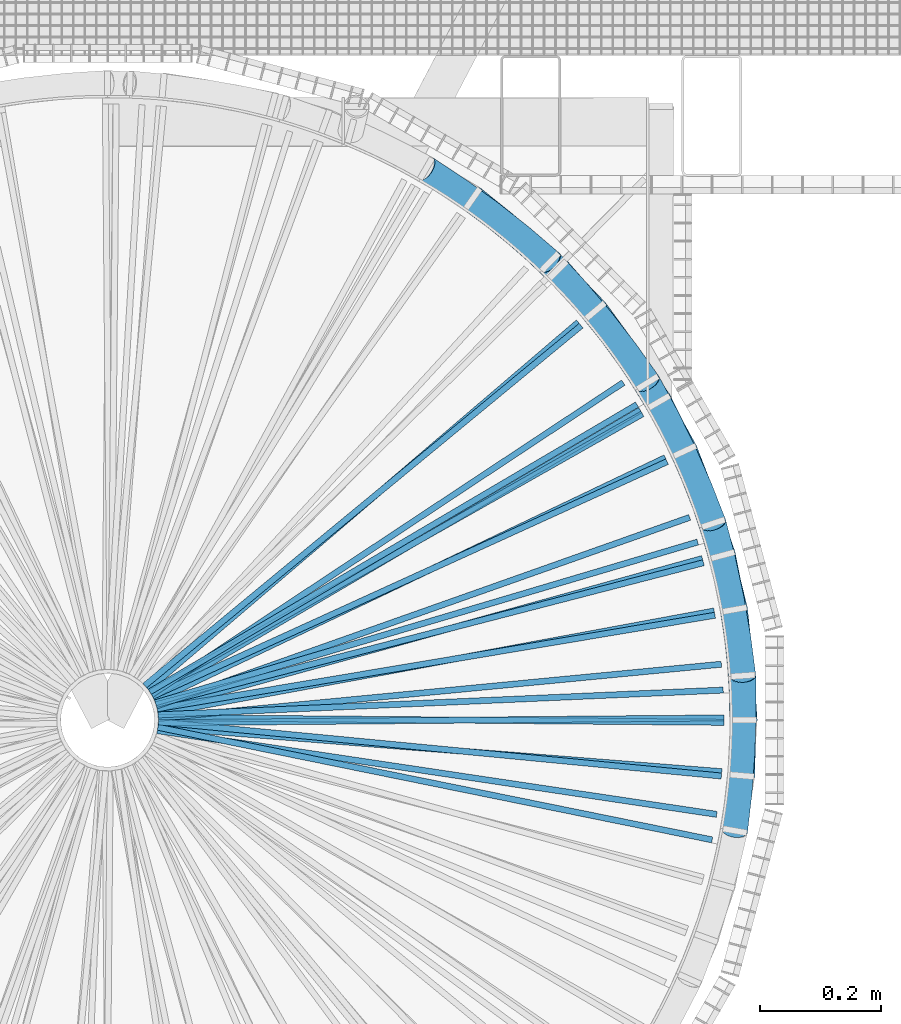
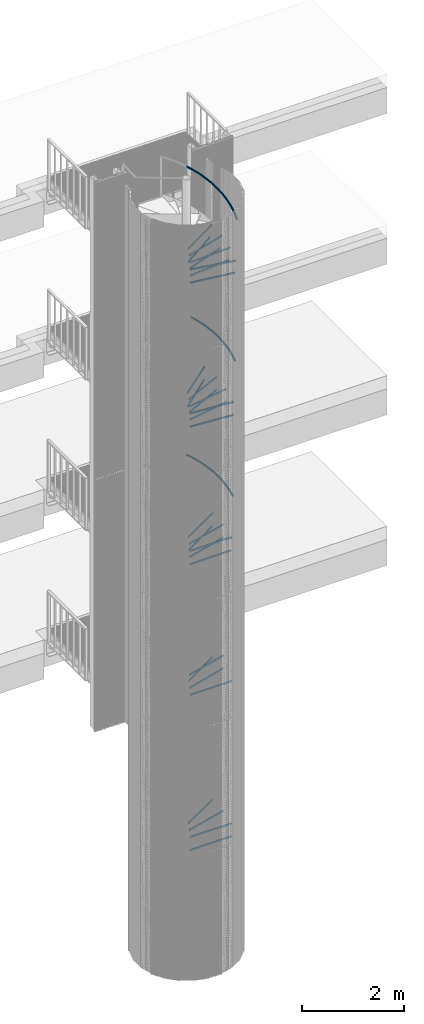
# One storey, part 302 of 1148: 30 beams, 13 members, 17 elements without a shape of their own.
"""IFC2X3 building model written with IfcOpenShell, lengths in millimetres."""

from ifc_helpers import new_model, entity, si_unit, frame, origin_with_axes, origin_2d_with_axis, place, context, subcontext, project, spatial, rectangle, extrude, material, type_object, element, aggregate, save


model = new_model("IFC2X3")

# Units and contexts
model_context = context("Model", 3, precision=1e-05, world=origin_with_axes())
body_context = subcontext(model_context, "Body", "Model", "MODEL_VIEW")
ifc_project = project(units=[si_unit("LENGTHUNIT", "METRE", prefix="MILLI"), si_unit("AREAUNIT", "SQUARE_METRE"), si_unit("VOLUMEUNIT", "CUBIC_METRE"), si_unit("MASSUNIT", "GRAM", prefix="KILO"), si_unit("TIMEUNIT", "SECOND"), si_unit("PLANEANGLEUNIT", "RADIAN"), si_unit("SOLIDANGLEUNIT", "STERADIAN"), si_unit("THERMODYNAMICTEMPERATUREUNIT", "DEGREE_CELSIUS"), si_unit("LUMINOUSINTENSITYUNIT", "LUMEN")], contexts=[model_context])

# Site, building, storey
site_placement = place(None, origin_with_axes())
site = spatial("IfcSite", under=ifc_project, at=site_placement, Name="Undefined", CompositionType="ELEMENT")
building_placement = place(site_placement, origin_with_axes())
building = spatial("IfcBuilding", under=site, at=building_placement, Name="Undefined", CompositionType="ELEMENT")
storey_placement = place(building_placement, origin_with_axes())
storey = spatial("IfcBuildingStorey", under=building, at=storey_placement, Name="Undefined", CompositionType="ELEMENT", Elevation=0.0)

# Assembly, beam
assembly_1_placement = place(storey_placement, origin_with_axes())
assembly_1 = element("IfcElementAssembly", 1, at=assembly_1_placement, inside=storey, Name="POTEAU", AssemblyPlace="NOTDEFINED", PredefinedType="NOTDEFINED")
ifc_material = material(Name="STEEL/S235JR")
beam_type = type_object("IfcBeamType", Name="PL10*40", PredefinedType="NOTDEFINED")
beam_1_placement = place(assembly_1_placement, frame((61.5514692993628, 57.2469454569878, 13196.4), z_axis=(0.0, 0.0, 1.0), x_axis=(0.771460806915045, 0.636276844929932, 0.0)))
beam_1 = element("IfcBeam", 2, at=beam_1_placement, type_object=beam_type, material=ifc_material, Name="RAIDISSEUR", context=body_context, shape_type="SweptSolid", body=[
    extrude(rectangle(XDim=10.0, YDim=40.0, at=origin_2d_with_axis()), frame((935.982964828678, -2.59787459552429e-14, -3.63797880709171e-12), z_axis=(-1.0, 0.0, 0.0), x_axis=(0.0, -1.0, 0.0)), (0.0, 0.0, 1.0), 935.98),
])

# Assembly, beams
assembly_2_placement = place(storey_placement, origin_with_axes())
assembly_2 = element("IfcElementAssembly", 3, at=assembly_2_placement, inside=storey, Name="POTEAU", AssemblyPlace="NOTDEFINED", PredefinedType="NOTDEFINED")
beam_2_placement = place(assembly_2_placement, frame((79.9781805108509, 25.8705774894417, 9596.40000000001), z_axis=(0.0, 0.0, 1.0), x_axis=(0.968083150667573, 0.250629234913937, 0.0)))
beam_2 = element("IfcBeam", 4, at=beam_2_placement, type_object=beam_type, material=ifc_material, Name="RAIDISSEUR", context=body_context, shape_type="SweptSolid", body=[
    extrude(rectangle(XDim=10.0, YDim=40.0, at=origin_2d_with_axis()), frame((935.982964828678, -2.59787459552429e-14, -3.63797880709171e-12), z_axis=(-1.0, 0.0, 0.0), x_axis=(0.0, -1.0, 0.0)), (0.0, 0.0, 1.0), 935.98),
])
beam_3_placement = place(assembly_2_placement, frame((83.9487882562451, 4.28918262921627, 9439.88000000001), z_axis=(0.0, 0.0, 1.0), x_axis=(0.99996413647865, -0.00846910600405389, 0.0)))
beam_3 = element("IfcBeam", 5, at=beam_3_placement, type_object=beam_type, material=ifc_material, Name="RAIDISSEUR", context=body_context, shape_type="SweptSolid", body=[
    extrude(rectangle(XDim=10.0, YDim=40.0, at=origin_2d_with_axis()), frame((935.982964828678, -2.59787459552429e-14, -3.63797880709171e-12), z_axis=(-1.0, 0.0, 0.0), x_axis=(0.0, -1.0, 0.0)), (0.0, 0.0, 1.0), 935.98),
])
beam_4_placement = place(assembly_2_placement, frame((82.1984248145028, 17.584512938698, 9283.36000000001), z_axis=(0.0, 0.0, 1.0), x_axis=(0.963699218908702, 0.266990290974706, 0.0)))
beam_4 = element("IfcBeam", 6, at=beam_4_placement, type_object=beam_type, material=ifc_material, Name="RAIDISSEUR", context=body_context, shape_type="SweptSolid", body=[
    extrude(rectangle(XDim=10.0, YDim=40.0, at=origin_2d_with_axis()), frame((935.982964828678, -2.59787459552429e-14, -3.63797880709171e-12), z_axis=(-1.0, 0.0, 0.0), x_axis=(0.0, -1.0, 0.0)), (0.0, 0.0, 1.0), 935.98),
])
beam_5_placement = place(assembly_2_placement, frame((70.5571919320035, 45.6889352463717, 9752.92000000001), z_axis=(0.0, 0.0, 1.0), x_axis=(0.870228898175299, 0.492647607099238, 0.0)))
beam_5 = element("IfcBeam", 7, at=beam_5_placement, type_object=beam_type, material=ifc_material, Name="RAIDISSEUR", context=body_context, shape_type="SweptSolid", body=[
    extrude(rectangle(XDim=10.0, YDim=40.0, at=origin_2d_with_axis()), frame((935.982964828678, -2.59787459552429e-14, -3.63797880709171e-12), z_axis=(-1.0, 0.0, 0.0), x_axis=(0.0, -1.0, 0.0)), (0.0, 0.0, 1.0), 935.98),
])

assembly_3_placement = place(storey_placement, origin_with_axes())
assembly_3 = element("IfcElementAssembly", 8, at=assembly_3_placement, inside=storey, Name="POTEAU", AssemblyPlace="NOTDEFINED", PredefinedType="NOTDEFINED")
beam_6_placement = place(assembly_3_placement, frame((79.978180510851, 25.8705774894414, 6465.84000000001), z_axis=(0.0, 0.0, 1.0), x_axis=(0.968083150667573, 0.250629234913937, 0.0)))
beam_6 = element("IfcBeam", 9, at=beam_6_placement, type_object=beam_type, material=ifc_material, Name="RAIDISSEUR", context=body_context, shape_type="SweptSolid", body=[
    extrude(rectangle(XDim=10.0, YDim=40.0, at=origin_2d_with_axis()), frame((935.982964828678, -2.59787459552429e-14, -3.63797880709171e-12), z_axis=(-1.0, 0.0, 0.0), x_axis=(0.0, -1.0, 0.0)), (0.0, 0.0, 1.0), 935.98),
])
beam_7_placement = place(assembly_3_placement, frame((83.9487882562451, -4.28918262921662, 2293.8), z_axis=(0.0, 0.0, 1.0), x_axis=(0.99996413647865, 0.00846910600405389, 0.0)))
beam_7 = element("IfcBeam", 10, at=beam_7_placement, type_object=beam_type, material=ifc_material, Name="RAIDISSEUR", context=body_context, shape_type="SweptSolid", body=[
    extrude(rectangle(XDim=10.0, YDim=40.0, at=origin_2d_with_axis()), frame((935.982964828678, -2.59787459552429e-14, -3.63797880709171e-12), z_axis=(-1.0, 0.0, 0.0), x_axis=(0.0, -1.0, 0.0)), (0.0, 0.0, 1.0), 935.98),
])
beam_8_placement = place(assembly_3_placement, frame((83.9487882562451, -4.28918262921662, 6002.28000000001), z_axis=(0.0, 0.0, 1.0), x_axis=(0.99996413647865, 0.00846910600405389, 0.0)))
beam_8 = element("IfcBeam", 11, at=beam_8_placement, type_object=beam_type, material=ifc_material, Name="RAIDISSEUR", context=body_context, shape_type="SweptSolid", body=[
    extrude(rectangle(XDim=10.0, YDim=40.0, at=origin_2d_with_axis()), frame((935.982964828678, -2.59787459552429e-14, -3.63797880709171e-12), z_axis=(-1.0, 0.0, 0.0), x_axis=(0.0, -1.0, 0.0)), (0.0, 0.0, 1.0), 935.98),
])
beam_9_placement = place(assembly_3_placement, frame((74.8463745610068, 38.2598530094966, 6311.32000000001), z_axis=(0.0, 0.0, 1.0), x_axis=(0.861759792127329, 0.507316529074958, 0.0)))
beam_9 = element("IfcBeam", 12, at=beam_9_placement, type_object=beam_type, material=ifc_material, Name="RAIDISSEUR", context=body_context, shape_type="SweptSolid", body=[
    extrude(rectangle(XDim=10.0, YDim=40.0, at=origin_2d_with_axis()), frame((935.982964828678, -2.59787459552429e-14, -3.63797880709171e-12), z_axis=(-1.0, 0.0, 0.0), x_axis=(0.0, -1.0, 0.0)), (0.0, 0.0, 1.0), 935.98),
])
beam_10_placement = place(assembly_3_placement, frame((82.1984248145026, 17.5845129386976, 6156.80000000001), z_axis=(0.0, 0.0, 1.0), x_axis=(0.963699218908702, 0.266990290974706, 0.0)))
beam_10 = element("IfcBeam", 13, at=beam_10_placement, type_object=beam_type, material=ifc_material, Name="RAIDISSEUR", context=body_context, shape_type="SweptSolid", body=[
    extrude(rectangle(XDim=10.0, YDim=40.0, at=origin_2d_with_axis()), frame((935.982964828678, -2.59787459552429e-14, -3.63797880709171e-12), z_axis=(-1.0, 0.0, 0.0), x_axis=(0.0, -1.0, 0.0)), (0.0, 0.0, 1.0), 935.98),
])

assembly_4_placement = place(storey_placement, origin_with_axes())
assembly_4 = element("IfcElementAssembly", 14, at=assembly_4_placement, inside=storey, Name="POTEAU", AssemblyPlace="NOTDEFINED", PredefinedType="NOTDEFINED")
beam_11_placement = place(assembly_4_placement, frame((82.2442633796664, -17.3688594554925, 15857.28), z_axis=(0.0, 0.0, 1.0), x_axis=(0.988977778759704, -0.148064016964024, 0.0)))
beam_11 = element("IfcBeam", 15, at=beam_11_placement, type_object=beam_type, material=ifc_material, Name="RAIDISSEUR", context=body_context, shape_type="SweptSolid", body=[
    extrude(rectangle(XDim=10.0, YDim=40.0, at=origin_2d_with_axis()), frame((935.982964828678, -2.59787459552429e-14, -3.63797880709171e-12), z_axis=(-1.0, 0.0, 0.0), x_axis=(0.0, -1.0, 0.0)), (0.0, 0.0, 1.0), 935.98),
])
beam_12_placement = place(assembly_4_placement, frame((72.7414342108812, 42.1245757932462, 16326.84), z_axis=(0.0, 0.0, 1.0), x_axis=(0.83402788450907, 0.551722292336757, 0.0)))
beam_12 = element("IfcBeam", 16, at=beam_12_placement, type_object=beam_type, material=ifc_material, Name="RAIDISSEUR", context=body_context, shape_type="SweptSolid", body=[
    extrude(rectangle(XDim=10.0, YDim=40.0, at=origin_2d_with_axis()), frame((935.982964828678, -2.59787459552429e-14, -3.63797880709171e-12), z_axis=(-1.0, 0.0, 0.0), x_axis=(0.0, -1.0, 0.0)), (0.0, 0.0, 1.0), 935.98),
])
beam_13_placement = place(assembly_4_placement, frame((79.0265898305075, 28.6460160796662, 16483.36), z_axis=(0.0, 0.0, 1.0), x_axis=(0.958746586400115, 0.284262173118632, 0.0)))
beam_13 = element("IfcBeam", 17, at=beam_13_placement, type_object=beam_type, material=ifc_material, Name="RAIDISSEUR", context=body_context, shape_type="SweptSolid", body=[
    extrude(rectangle(XDim=10.0, YDim=40.0, at=origin_2d_with_axis()), frame((935.982964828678, -2.59787459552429e-14, -3.63797880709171e-12), z_axis=(-1.0, 0.0, 0.0), x_axis=(0.0, -1.0, 0.0)), (0.0, 0.0, 1.0), 935.98),
])
beam_14_placement = place(assembly_4_placement, frame((83.6092608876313, 8.67684456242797, 16326.84), z_axis=(0.0, 0.0, 1.0), x_axis=(0.999036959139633, 0.0438765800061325, 0.0)))
beam_14 = element("IfcBeam", 18, at=beam_14_placement, type_object=beam_type, material=ifc_material, Name="RAIDISSEUR", context=body_context, shape_type="SweptSolid", body=[
    extrude(rectangle(XDim=10.0, YDim=40.0, at=origin_2d_with_axis()), frame((935.982964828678, -2.59787459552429e-14, -3.63797880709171e-12), z_axis=(-1.0, 0.0, 0.0), x_axis=(0.0, -1.0, 0.0)), (0.0, 0.0, 1.0), 935.98),
])
beam_15_placement = place(assembly_4_placement, frame((80.7715599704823, 23.2755502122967, 16170.32), z_axis=(0.0, 0.0, 1.0), x_axis=(0.942727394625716, 0.333564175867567, 0.0)))
beam_15 = element("IfcBeam", 19, at=beam_15_placement, type_object=beam_type, material=ifc_material, Name="RAIDISSEUR", context=body_context, shape_type="SweptSolid", body=[
    extrude(rectangle(XDim=10.0, YDim=40.0, at=origin_2d_with_axis()), frame((935.982964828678, -2.59787459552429e-14, -3.63797880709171e-12), z_axis=(-1.0, 0.0, 0.0), x_axis=(0.0, -1.0, 0.0)), (0.0, 0.0, 1.0), 935.98),
])
beam_16_placement = place(assembly_4_placement, frame((69.74906386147, 46.9133693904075, 16639.88), z_axis=(0.0, 0.0, 1.0), x_axis=(0.861498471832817, 0.507760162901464, 0.0)))
beam_16 = element("IfcBeam", 20, at=beam_16_placement, type_object=beam_type, material=ifc_material, Name="RAIDISSEUR", context=body_context, shape_type="SweptSolid", body=[
    extrude(rectangle(XDim=10.0, YDim=40.0, at=origin_2d_with_axis()), frame((935.982964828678, -2.59787459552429e-14, -3.63797880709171e-12), z_axis=(-1.0, 0.0, 0.0), x_axis=(0.0, -1.0, 0.0)), (0.0, 0.0, 1.0), 935.98),
])
beam_17_placement = place(assembly_4_placement, frame((84.003164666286, 3.04375799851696, 16013.8), z_axis=(0.0, 0.0, 1.0), x_axis=(0.995420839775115, 0.0955894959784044, 0.0)))
beam_17 = element("IfcBeam", 21, at=beam_17_placement, type_object=beam_type, material=ifc_material, Name="RAIDISSEUR", context=body_context, shape_type="SweptSolid", body=[
    extrude(rectangle(XDim=10.0, YDim=40.0, at=origin_2d_with_axis()), frame((935.982964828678, -2.59787459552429e-14, -3.63797880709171e-12), z_axis=(-1.0, 0.0, 0.0), x_axis=(0.0, -1.0, 0.0)), (0.0, 0.0, 1.0), 935.98),
])
beam_18_placement = place(assembly_4_placement, frame((83.2248271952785, -11.8078056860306, 16170.32), z_axis=(0.0, 0.0, 1.0), x_axis=(0.979975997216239, -0.199115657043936, 0.0)))
beam_18 = element("IfcBeam", 22, at=beam_18_placement, type_object=beam_type, material=ifc_material, Name="RAIDISSEUR", context=body_context, shape_type="SweptSolid", body=[
    extrude(rectangle(XDim=10.0, YDim=40.0, at=origin_2d_with_axis()), frame((935.982964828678, -2.59787459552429e-14, -3.63797880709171e-12), z_axis=(-1.0, 0.0, 0.0), x_axis=(0.0, -1.0, 0.0)), (0.0, 0.0, 1.0), 935.98),
])
aggregate(assembly_4, [beam_11, beam_12, beam_13, beam_14, beam_15, beam_16, beam_17, beam_18])

# Beam
beam_19_placement = place(assembly_1_placement, frame((74.2707535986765, 39.3656105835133, 13039.88), z_axis=(0.0, 0.0, 1.0), x_axis=(0.909854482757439, 0.414927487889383, 0.0)))
beam_19 = element("IfcBeam", 23, at=beam_19_placement, type_object=beam_type, material=ifc_material, Name="RAIDISSEUR", context=body_context, shape_type="SweptSolid", body=[
    extrude(rectangle(XDim=10.0, YDim=40.0, at=origin_2d_with_axis()), frame((935.982964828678, -2.59787459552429e-14, -3.63797880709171e-12), z_axis=(-1.0, 0.0, 0.0), x_axis=(0.0, -1.0, 0.0)), (0.0, 0.0, 1.0), 935.98),
])

beam_20_placement = place(assembly_1_placement, frame((81.9286087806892, 18.8015744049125, 12883.36), z_axis=(0.0, 0.0, 1.0), x_axis=(0.986243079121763, 0.165301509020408, 0.0)))
beam_20 = element("IfcBeam", 24, at=beam_20_placement, type_object=beam_type, material=ifc_material, Name="RAIDISSEUR", context=body_context, shape_type="SweptSolid", body=[
    extrude(rectangle(XDim=10.0, YDim=40.0, at=origin_2d_with_axis()), frame((935.982964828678, -2.59787459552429e-14, -3.63797880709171e-12), z_axis=(-1.0, 0.0, 0.0), x_axis=(0.0, -1.0, 0.0)), (0.0, 0.0, 1.0), 935.98),
])

beam_21_placement = place(assembly_1_placement, frame((77.8961274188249, 31.5909713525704, 12726.84), z_axis=(0.0, 0.0, 1.0), x_axis=(0.902696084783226, 0.430278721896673, 0.0)))
beam_21 = element("IfcBeam", 25, at=beam_21_placement, type_object=beam_type, material=ifc_material, Name="RAIDISSEUR", context=body_context, shape_type="SweptSolid", body=[
    extrude(rectangle(XDim=10.0, YDim=40.0, at=origin_2d_with_axis()), frame((935.982964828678, -2.59787459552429e-14, -3.63797880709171e-12), z_axis=(-1.0, 0.0, 0.0), x_axis=(0.0, -1.0, 0.0)), (0.0, 0.0, 1.0), 935.98),
])

beam_22_placement = place(assembly_1_placement, frame((83.4182262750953, 10.3535337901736, 12570.32), z_axis=(0.0, 0.0, 1.0), x_axis=(0.983301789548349, 0.181982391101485, 0.0)))
beam_22 = element("IfcBeam", 26, at=beam_22_placement, type_object=beam_type, material=ifc_material, Name="RAIDISSEUR", context=body_context, shape_type="SweptSolid", body=[
    extrude(rectangle(XDim=10.0, YDim=40.0, at=origin_2d_with_axis()), frame((935.982964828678, -2.59787459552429e-14, -3.63797880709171e-12), z_axis=(-1.0, 0.0, 0.0), x_axis=(0.0, -1.0, 0.0)), (0.0, 0.0, 1.0), 935.98),
])

beam_23_placement = place(assembly_1_placement, frame((84.003164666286, -3.04375799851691, 12726.84), z_axis=(0.0, 0.0, 1.0), x_axis=(0.995420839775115, -0.0955894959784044, 0.0)))
beam_23 = element("IfcBeam", 27, at=beam_23_placement, type_object=beam_type, material=ifc_material, Name="RAIDISSEUR", context=body_context, shape_type="SweptSolid", body=[
    extrude(rectangle(XDim=10.0, YDim=40.0, at=origin_2d_with_axis()), frame((935.982964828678, -2.59787459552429e-14, -3.63797880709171e-12), z_axis=(-1.0, 0.0, 0.0), x_axis=(0.0, -1.0, 0.0)), (0.0, 0.0, 1.0), 935.98),
])

beam_24_placement = place(assembly_1_placement, frame((67.0655362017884, 50.6755364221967, 12883.36), z_axis=(0.0, 0.0, 1.0), x_axis=(0.760573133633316, 0.649252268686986, 0.0)))
beam_24 = element("IfcBeam", 28, at=beam_24_placement, type_object=beam_type, material=ifc_material, Name="RAIDISSEUR", context=body_context, shape_type="SweptSolid", body=[
    extrude(rectangle(XDim=10.0, YDim=40.0, at=origin_2d_with_axis()), frame((935.982964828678, -2.59787459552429e-14, -3.63797880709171e-12), z_axis=(-1.0, 0.0, 0.0), x_axis=(0.0, -1.0, 0.0)), (0.0, 0.0, 1.0), 935.98),
])

beam_25_placement = place(assembly_1_placement, frame((83.2555108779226, -11.5894799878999, 12413.8), z_axis=(0.0, 0.0, 1.0), x_axis=(0.996897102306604, -0.0787157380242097, 0.0)))
beam_25 = element("IfcBeam", 29, at=beam_25_placement, type_object=beam_type, material=ifc_material, Name="RAIDISSEUR", context=body_context, shape_type="SweptSolid", body=[
    extrude(rectangle(XDim=10.0, YDim=40.0, at=origin_2d_with_axis()), frame((935.982964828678, -2.59787459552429e-14, -3.63797880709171e-12), z_axis=(-1.0, 0.0, 0.0), x_axis=(0.0, -1.0, 0.0)), (0.0, 0.0, 1.0), 935.98),
])

aggregate(assembly_1, [beam_1, beam_19, beam_20, beam_21, beam_22, beam_23, beam_24, beam_25])

beam_26_placement = place(assembly_2_placement, frame((83.9487882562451, -4.28918262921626, 9126.84000000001), z_axis=(0.0, 0.0, 1.0), x_axis=(0.99996413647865, 0.00846910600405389, 0.0)))
beam_26 = element("IfcBeam", 30, at=beam_26_placement, type_object=beam_type, material=ifc_material, Name="RAIDISSEUR", context=body_context, shape_type="SweptSolid", body=[
    extrude(rectangle(XDim=10.0, YDim=40.0, at=origin_2d_with_axis()), frame((935.982964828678, -2.59787459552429e-14, -3.63797880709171e-12), z_axis=(-1.0, 0.0, 0.0), x_axis=(0.0, -1.0, 0.0)), (0.0, 0.0, 1.0), 935.98),
])

beam_27_placement = place(assembly_2_placement, frame((74.8463745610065, 38.2598530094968, 9439.88000000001), z_axis=(0.0, 0.0, 1.0), x_axis=(0.861759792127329, 0.507316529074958, 0.0)))
beam_27 = element("IfcBeam", 31, at=beam_27_placement, type_object=beam_type, material=ifc_material, Name="RAIDISSEUR", context=body_context, shape_type="SweptSolid", body=[
    extrude(rectangle(XDim=10.0, YDim=40.0, at=origin_2d_with_axis()), frame((935.982964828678, -2.59787459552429e-14, -3.63797880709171e-12), z_axis=(-1.0, 0.0, 0.0), x_axis=(0.0, -1.0, 0.0)), (0.0, 0.0, 1.0), 935.98),
])

aggregate(assembly_2, [beam_2, beam_3, beam_4, beam_5, beam_26, beam_27])

beam_28_placement = place(assembly_3_placement, frame((79.978180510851, 25.8705774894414, 2757.36), z_axis=(0.0, 0.0, 1.0), x_axis=(0.968083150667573, 0.250629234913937, 0.0)))
beam_28 = element("IfcBeam", 32, at=beam_28_placement, type_object=beam_type, material=ifc_material, Name="RAIDISSEUR", context=body_context, shape_type="SweptSolid", body=[
    extrude(rectangle(XDim=10.0, YDim=40.0, at=origin_2d_with_axis()), frame((935.982964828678, -2.59787459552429e-14, -3.63797880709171e-12), z_axis=(-1.0, 0.0, 0.0), x_axis=(0.0, -1.0, 0.0)), (0.0, 0.0, 1.0), 935.98),
])

beam_29_placement = place(assembly_3_placement, frame((83.9487882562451, 4.28918262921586, 2602.84), z_axis=(0.0, 0.0, 1.0), x_axis=(0.99996413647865, -0.00846910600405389, 0.0)))
beam_29 = element("IfcBeam", 33, at=beam_29_placement, type_object=beam_type, material=ifc_material, Name="RAIDISSEUR", context=body_context, shape_type="SweptSolid", body=[
    extrude(rectangle(XDim=10.0, YDim=40.0, at=origin_2d_with_axis()), frame((935.982964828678, -2.59787459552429e-14, -3.63797880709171e-12), z_axis=(-1.0, 0.0, 0.0), x_axis=(0.0, -1.0, 0.0)), (0.0, 0.0, 1.0), 935.98),
])

beam_30_placement = place(assembly_3_placement, frame((70.5571919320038, 45.6889352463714, 2911.88), z_axis=(0.0, 0.0, 1.0), x_axis=(0.870228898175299, 0.492647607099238, 0.0)))
beam_30 = element("IfcBeam", 34, at=beam_30_placement, type_object=beam_type, material=ifc_material, Name="RAIDISSEUR", context=body_context, shape_type="SweptSolid", body=[
    extrude(rectangle(XDim=10.0, YDim=40.0, at=origin_2d_with_axis()), frame((935.982964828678, -2.59787459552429e-14, -3.63797880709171e-12), z_axis=(-1.0, 0.0, 0.0), x_axis=(0.0, -1.0, 0.0)), (0.0, 0.0, 1.0), 935.98),
])

aggregate(assembly_3, [beam_6, beam_7, beam_8, beam_9, beam_10, beam_28, beam_29, beam_30])

# Assembly, member
assembly_5_placement = place(storey_placement, origin_with_axes())
assembly_5 = element("IfcElementAssembly", 35, at=assembly_5_placement, inside=storey, Name="MONTANT", AssemblyPlace="NOTDEFINED", PredefinedType="NOTDEFINED")
member_type = type_object("IfcMemberType", Name="TUBE-42.4*3.2", PredefinedType="NOTDEFINED")
member_1_placement = place(assembly_5_placement, frame((745.290547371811, 745.290547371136, 10876.919999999), z_axis=(0.608761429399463, 0.793353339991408, 1.80913957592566e-10), x_axis=(-0.689586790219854, 0.5291385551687, 0.494451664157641)))
member_1 = element("IfcMember", 36, at=member_1_placement, type_object=member_type, material=ifc_material, Name="MAIN_COURANTE", context=body_context, shape_type="SweptSolid", body=[
    entity("IfcRevolvedAreaSolid", entity("IfcCircleHollowProfileDef", "AREA", None, entity("IfcAxis2Placement2D", entity("IfcCartesianPoint", [0.0, 0.0]), entity("IfcDirection", [1.0, 0.0])), 21.200000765, 3.200000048), entity("IfcAxis2Placement3D", entity("IfcCartesianPoint", [316.552681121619, 9.09494701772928e-13, -1.82569453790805e-12]), entity("IfcDirection", [-0.997177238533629, 2.1263748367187e-18, 0.0750836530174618]), entity("IfcDirection", [0.0, -1.0, 0.0])), entity("IfcAxis1Placement", entity("IfcCartesianPoint", [0.0, -2108.0, 0.0]), entity("IfcDirection", [1.0, 0.0, 0.0])), 0.150308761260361),
])
aggregate(assembly_5, [member_1])

assembly_6_placement = place(storey_placement, origin_with_axes())
assembly_6 = element("IfcElementAssembly", 37, at=assembly_6_placement, inside=storey, Name="MONTANT", AssemblyPlace="NOTDEFINED", PredefinedType="NOTDEFINED")
member_2_placement = place(assembly_6_placement, frame((912.790775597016, 527.000000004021, 10720.4000000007), z_axis=(0.793353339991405, 0.608761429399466, -1.80914867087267e-10), x_axis=(-0.529138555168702, 0.689586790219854, 0.494451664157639)))
member_2 = element("IfcMember", 38, at=member_2_placement, type_object=member_type, material=ifc_material, Name="MAIN_COURANTE", context=body_context, shape_type="SweptSolid", body=[
    entity("IfcRevolvedAreaSolid", entity("IfcCircleHollowProfileDef", "AREA", None, entity("IfcAxis2Placement2D", entity("IfcCartesianPoint", [0.0, 0.0]), entity("IfcDirection", [1.0, 0.0])), 21.200000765, 3.200000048), entity("IfcAxis2Placement3D", entity("IfcCartesianPoint", [316.552681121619, 9.09494701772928e-13, -1.82569453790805e-12]), entity("IfcDirection", [-0.997177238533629, 2.1263748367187e-18, 0.0750836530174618]), entity("IfcDirection", [0.0, -1.0, 0.0])), entity("IfcAxis1Placement", entity("IfcCartesianPoint", [0.0, -2108.0, 0.0]), entity("IfcDirection", [1.0, 0.0, 0.0])), 0.150308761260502),
])
aggregate(assembly_6, [member_2])

assembly_7_placement = place(storey_placement, origin_with_axes())
assembly_7 = element("IfcElementAssembly", 39, at=assembly_7_placement, inside=storey, Name="MONTANT", AssemblyPlace="NOTDEFINED", PredefinedType="NOTDEFINED")
member_3_placement = place(assembly_7_placement, frame((1018.08582090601, 272.795273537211, 10563.8800000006), z_axis=(0.923879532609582, 0.382683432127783, -1.50203049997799e-10), x_axis=(-0.332630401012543, 0.803040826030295, 0.494451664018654)))
member_3 = element("IfcMember", 40, at=member_3_placement, type_object=member_type, material=ifc_material, Name="MAIN_COURANTE", context=body_context, shape_type="SweptSolid", body=[
    entity("IfcRevolvedAreaSolid", entity("IfcCircleHollowProfileDef", "AREA", None, entity("IfcAxis2Placement2D", entity("IfcCartesianPoint", [0.0, 0.0]), entity("IfcDirection", [1.0, 0.0])), 21.200000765, 3.200000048), entity("IfcAxis2Placement3D", entity("IfcCartesianPoint", [316.552681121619, 9.09494701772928e-13, -1.82569453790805e-12]), entity("IfcDirection", [-0.997177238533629, 2.1263748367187e-18, 0.0750836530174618]), entity("IfcDirection", [0.0, -1.0, 0.0])), entity("IfcAxis1Placement", entity("IfcCartesianPoint", [0.0, -2108.0, 0.0]), entity("IfcDirection", [1.0, 0.0, 0.0])), 0.150308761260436),
])
aggregate(assembly_7, [member_3])

assembly_8_placement = place(storey_placement, origin_with_axes())
assembly_8 = element("IfcElementAssembly", 41, at=assembly_8_placement, inside=storey, Name="MONTANT", AssemblyPlace="NOTDEFINED", PredefinedType="NOTDEFINED")
member_4_placement = place(assembly_8_placement, frame((1053.99999999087, -2.52157406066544e-10, 10407.3599999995), z_axis=(0.991444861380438, 0.130526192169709, -6.66041160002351e-11), x_axis=(-0.113454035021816, 0.861768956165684, 0.494451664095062)))
member_4 = element("IfcMember", 42, at=member_4_placement, type_object=member_type, material=ifc_material, Name="MAIN_COURANTE", context=body_context, shape_type="SweptSolid", body=[
    entity("IfcRevolvedAreaSolid", entity("IfcCircleHollowProfileDef", "AREA", None, entity("IfcAxis2Placement2D", entity("IfcCartesianPoint", [0.0, 0.0]), entity("IfcDirection", [1.0, 0.0])), 21.200000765, 3.200000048), entity("IfcAxis2Placement3D", entity("IfcCartesianPoint", [316.552681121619, 9.09494701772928e-13, -1.82569453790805e-12]), entity("IfcDirection", [-0.997177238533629, 2.1263748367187e-18, 0.0750836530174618]), entity("IfcDirection", [0.0, -1.0, 0.0])), entity("IfcAxis1Placement", entity("IfcCartesianPoint", [0.0, -2108.0, 0.0]), entity("IfcDirection", [1.0, 0.0, 0.0])), 0.150308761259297),
])
aggregate(assembly_8, [member_4])

assembly_9_placement = place(storey_placement, origin_with_axes())
assembly_9 = element("IfcElementAssembly", 43, at=assembly_9_placement, inside=storey, Name="MONTANT", AssemblyPlace="NOTDEFINED", PredefinedType="NOTDEFINED")
member_5_placement = place(assembly_9_placement, frame((807.410843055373, 677.498140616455, 14163.8800000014), z_axis=(0.675590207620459, 0.737277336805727, 8.45193426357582e-11), x_axis=(-0.640845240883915, 0.587226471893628, 0.494451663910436)))
member_5 = element("IfcMember", 44, at=member_5_placement, type_object=member_type, material=ifc_material, Name="MAIN_COURANTE", context=body_context, shape_type="SweptSolid", body=[
    entity("IfcRevolvedAreaSolid", entity("IfcCircleHollowProfileDef", "AREA", None, entity("IfcAxis2Placement2D", entity("IfcCartesianPoint", [0.0, 0.0]), entity("IfcDirection", [1.0, 0.0])), 21.200000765, 3.200000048), entity("IfcAxis2Placement3D", entity("IfcCartesianPoint", [316.552681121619, 9.09494701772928e-13, -1.82569453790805e-12]), entity("IfcDirection", [-0.997177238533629, 2.1263748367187e-18, 0.0750836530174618]), entity("IfcDirection", [0.0, -1.0, 0.0])), entity("IfcAxis1Placement", entity("IfcCartesianPoint", [0.0, -2108.0, 0.0]), entity("IfcDirection", [1.0, 0.0, 0.0])), 0.150308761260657),
])
aggregate(assembly_9, [member_5])

assembly_10_placement = place(storey_placement, origin_with_axes())
assembly_10 = element("IfcElementAssembly", 45, at=assembly_10_placement, inside=storey, Name="MONTANT", AssemblyPlace="NOTDEFINED", PredefinedType="NOTDEFINED")
member_6_placement = place(assembly_10_placement, frame((955.248407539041, 445.439647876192, 14007.3600000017), z_axis=(0.843391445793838, 0.537299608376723, 2.43751856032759e-10), x_axis=(-0.467023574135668, 0.733080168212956, 0.494451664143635)))
member_6 = element("IfcMember", 46, at=member_6_placement, type_object=member_type, material=ifc_material, Name="MAIN_COURANTE", context=body_context, shape_type="SweptSolid", body=[
    entity("IfcRevolvedAreaSolid", entity("IfcCircleHollowProfileDef", "AREA", None, entity("IfcAxis2Placement2D", entity("IfcCartesianPoint", [0.0, 0.0]), entity("IfcDirection", [1.0, 0.0])), 21.200000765, 3.200000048), entity("IfcAxis2Placement3D", entity("IfcCartesianPoint", [316.552681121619, 9.09494701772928e-13, -1.82569453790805e-12]), entity("IfcDirection", [-0.997177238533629, 2.1263748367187e-18, 0.0750836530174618]), entity("IfcDirection", [0.0, -1.0, 0.0])), entity("IfcAxis1Placement", entity("IfcCartesianPoint", [0.0, -2108.0, 0.0]), entity("IfcDirection", [1.0, 0.0, 0.0])), 0.150308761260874),
])
aggregate(assembly_10, [member_6])

assembly_11_placement = place(storey_placement, origin_with_axes())
assembly_11 = element("IfcElementAssembly", 47, at=assembly_11_placement, inside=storey, Name="MONTANT", AssemblyPlace="NOTDEFINED", PredefinedType="NOTDEFINED")
member_7_placement = place(assembly_11_placement, frame((1037.98737168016, 183.025179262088, 13850.8399999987), z_axis=(0.953716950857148, 0.300705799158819, -4.31926309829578e-10), x_axis=(-0.261375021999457, 0.828975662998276, 0.494451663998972)))
member_7 = element("IfcMember", 48, at=member_7_placement, type_object=member_type, material=ifc_material, Name="MAIN_COURANTE", context=body_context, shape_type="SweptSolid", body=[
    entity("IfcRevolvedAreaSolid", entity("IfcCircleHollowProfileDef", "AREA", None, entity("IfcAxis2Placement2D", entity("IfcCartesianPoint", [0.0, 0.0]), entity("IfcDirection", [1.0, 0.0])), 21.200000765, 3.200000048), entity("IfcAxis2Placement3D", entity("IfcCartesianPoint", [316.552681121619, 9.09494701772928e-13, -1.82569453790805e-12]), entity("IfcDirection", [-0.997177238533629, 2.1263748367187e-18, 0.0750836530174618]), entity("IfcDirection", [0.0, -1.0, 0.0])), entity("IfcAxis1Placement", entity("IfcCartesianPoint", [0.0, -2108.0, 0.0]), entity("IfcDirection", [1.0, 0.0, 0.0])), 0.150308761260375),
])
aggregate(assembly_11, [member_7])

assembly_12_placement = place(storey_placement, origin_with_axes())
assembly_12 = element("IfcElementAssembly", 49, at=assembly_12_placement, inside=storey, Name="MONTANT", AssemblyPlace="NOTDEFINED", PredefinedType="NOTDEFINED")
member_8_placement = place(assembly_12_placement, frame((1049.98921176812, -91.8621528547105, 13694.3200000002), z_axis=(0.999048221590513, 0.0436193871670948, 1.05123035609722e-10), x_axis=(-0.0379141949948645, 0.868377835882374, 0.494451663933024)))
member_8 = element("IfcMember", 50, at=member_8_placement, type_object=member_type, material=ifc_material, Name="MAIN_COURANTE", context=body_context, shape_type="SweptSolid", body=[
    entity("IfcRevolvedAreaSolid", entity("IfcCircleHollowProfileDef", "AREA", None, entity("IfcAxis2Placement2D", entity("IfcCartesianPoint", [0.0, 0.0]), entity("IfcDirection", [1.0, 0.0])), 21.200000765, 3.200000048), entity("IfcAxis2Placement3D", entity("IfcCartesianPoint", [316.552681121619, 9.09494701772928e-13, -1.82569453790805e-12]), entity("IfcDirection", [-0.997177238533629, 2.1263748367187e-18, 0.0750836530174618]), entity("IfcDirection", [0.0, -1.0, 0.0])), entity("IfcAxis1Placement", entity("IfcCartesianPoint", [0.0, -2108.0, 0.0]), entity("IfcDirection", [1.0, 0.0, 0.0])), 0.15030876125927),
])
aggregate(assembly_12, [member_8])

assembly_13_placement = place(storey_placement, origin_with_axes())
assembly_13 = element("IfcElementAssembly", 51, at=assembly_13_placement, inside=storey, Name="MONTANT", AssemblyPlace="NOTDEFINED", PredefinedType="NOTDEFINED")
member_9_placement = place(assembly_13_placement, frame((732.169922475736, 758.184149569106, 17763.879999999), z_axis=(0.601815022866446, 0.79863551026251, 1.61235220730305e-10), x_axis=(-0.682021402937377, 0.51393998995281, 0.520300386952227)))
member_9 = element("IfcMember", 52, at=member_9_placement, type_object=member_type, material=ifc_material, Name="MAIN_COURANTE", context=body_context, shape_type="SweptSolid", body=[
    entity("IfcRevolvedAreaSolid", entity("IfcCircleHollowProfileDef", "AREA", None, entity("IfcAxis2Placement2D", entity("IfcCartesianPoint", [0.0, 0.0]), entity("IfcDirection", [1.0, 0.0])), 21.200000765, 3.200000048), entity("IfcAxis2Placement3D", entity("IfcCartesianPoint", [300.826222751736, 9.26193911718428e-13, -2.55538133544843e-15]), entity("IfcDirection", [-0.997451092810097, -5.56582410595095e-17, 0.0713534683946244]), entity("IfcDirection", [0.0, -1.0, 0.0])), entity("IfcAxis1Placement", entity("IfcCartesianPoint", [0.0, -2108.0, 0.0]), entity("IfcDirection", [1.0, 0.0, 0.0])), 0.142828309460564),
])
aggregate(assembly_13, [member_9])

assembly_14_placement = place(storey_placement, origin_with_axes())
assembly_14 = element("IfcElementAssembly", 53, at=assembly_14_placement, inside=storey, Name="MONTANT", AssemblyPlace="NOTDEFINED", PredefinedType="NOTDEFINED")
member_10_placement = place(assembly_14_placement, frame((893.842693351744, 558.534904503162, 17607.3600000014), z_axis=(0.777145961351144, 0.629320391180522, -4.91600076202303e-11), x_axis=(-0.537429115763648, 0.663669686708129, 0.520300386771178)))
member_10 = element("IfcMember", 54, at=member_10_placement, type_object=member_type, material=ifc_material, Name="MAIN_COURANTE", context=body_context, shape_type="SweptSolid", body=[
    entity("IfcRevolvedAreaSolid", entity("IfcCircleHollowProfileDef", "AREA", None, entity("IfcAxis2Placement2D", entity("IfcCartesianPoint", [0.0, 0.0]), entity("IfcDirection", [1.0, 0.0])), 21.200000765, 3.200000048), entity("IfcAxis2Placement3D", entity("IfcCartesianPoint", [300.826222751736, 9.26193911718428e-13, -2.55538133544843e-15]), entity("IfcDirection", [-0.997451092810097, -5.56582410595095e-17, 0.0713534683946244]), entity("IfcDirection", [0.0, -1.0, 0.0])), entity("IfcAxis1Placement", entity("IfcCartesianPoint", [0.0, -2108.0, 0.0]), entity("IfcDirection", [1.0, 0.0, 0.0])), 0.142828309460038),
])
aggregate(assembly_14, [member_10])

assembly_15_placement = place(storey_placement, origin_with_axes())
assembly_15 = element("IfcElementAssembly", 55, at=assembly_15_placement, inside=storey, Name="MONTANT", AssemblyPlace="NOTDEFINED", PredefinedType="NOTDEFINED")
member_11_placement = place(assembly_15_placement, frame((1002.41356818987, 325.703912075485, 17450.8399999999), z_axis=(0.906307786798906, 0.422618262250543, 1.9012441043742e-10), x_axis=(-0.360908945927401, 0.773971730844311, 0.520300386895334)))
member_11 = element("IfcMember", 56, at=member_11_placement, type_object=member_type, material=ifc_material, Name="MAIN_COURANTE", context=body_context, shape_type="SweptSolid", body=[
    entity("IfcRevolvedAreaSolid", entity("IfcCircleHollowProfileDef", "AREA", None, entity("IfcAxis2Placement2D", entity("IfcCartesianPoint", [0.0, 0.0]), entity("IfcDirection", [1.0, 0.0])), 21.200000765, 3.200000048), entity("IfcAxis2Placement3D", entity("IfcCartesianPoint", [300.826222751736, 9.26193911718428e-13, -2.55538133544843e-15]), entity("IfcDirection", [-0.997451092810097, -5.56582410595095e-17, 0.0713534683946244]), entity("IfcDirection", [0.0, -1.0, 0.0])), entity("IfcAxis1Placement", entity("IfcCartesianPoint", [0.0, -2108.0, 0.0]), entity("IfcDirection", [1.0, 0.0, 0.0])), 0.14282830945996),
])
aggregate(assembly_15, [member_11])

assembly_16_placement = place(storey_placement, origin_with_axes())
assembly_16 = element("IfcElementAssembly", 57, at=assembly_16_placement, inside=storey, Name="MONTANT", AssemblyPlace="NOTDEFINED", PredefinedType="NOTDEFINED")
member_12_placement = place(assembly_16_placement, frame((1051.43250898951, 73.5233233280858, 17294.3200000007), z_axis=(0.981627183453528, 0.190808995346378, 1.5443583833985e-10), x_axis=(-0.162947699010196, 0.838293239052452, 0.520300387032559)))
member_12 = element("IfcMember", 58, at=member_12_placement, type_object=member_type, material=ifc_material, Name="MAIN_COURANTE", context=body_context, shape_type="SweptSolid", body=[
    entity("IfcRevolvedAreaSolid", entity("IfcCircleHollowProfileDef", "AREA", None, entity("IfcAxis2Placement2D", entity("IfcCartesianPoint", [0.0, 0.0]), entity("IfcDirection", [1.0, 0.0])), 21.200000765, 3.200000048), entity("IfcAxis2Placement3D", entity("IfcCartesianPoint", [300.826222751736, 9.26193911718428e-13, -2.55538133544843e-15]), entity("IfcDirection", [-0.997451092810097, -5.56582410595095e-17, 0.0713534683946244]), entity("IfcDirection", [0.0, -1.0, 0.0])), entity("IfcAxis1Placement", entity("IfcCartesianPoint", [0.0, -2108.0, 0.0]), entity("IfcDirection", [1.0, 0.0, 0.0])), 0.142828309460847),
])
aggregate(assembly_16, [member_12])

assembly_17_placement = place(storey_placement, origin_with_axes())
assembly_17 = element("IfcElementAssembly", 59, at=assembly_17_placement, inside=storey, Name="MONTANT", AssemblyPlace="NOTDEFINED", PredefinedType="NOTDEFINED")
member_13_placement = place(assembly_17_placement, frame((1037.98737166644, -183.025179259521, 17137.8000000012), z_axis=(0.998629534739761, -0.0523359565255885, -3.28080204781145e-10), x_axis=(0.0446940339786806, 0.852812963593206, 0.520300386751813)))
member_13 = element("IfcMember", 60, at=member_13_placement, type_object=member_type, material=ifc_material, Name="MAIN_COURANTE", context=body_context, shape_type="SweptSolid", body=[
    entity("IfcRevolvedAreaSolid", entity("IfcCircleHollowProfileDef", "AREA", None, entity("IfcAxis2Placement2D", entity("IfcCartesianPoint", [0.0, 0.0]), entity("IfcDirection", [1.0, 0.0])), 21.200000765, 3.200000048), entity("IfcAxis2Placement3D", entity("IfcCartesianPoint", [300.826222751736, 9.26193911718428e-13, -2.55538133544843e-15]), entity("IfcDirection", [-0.997451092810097, -5.56582410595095e-17, 0.0713534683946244]), entity("IfcDirection", [0.0, -1.0, 0.0])), entity("IfcAxis1Placement", entity("IfcCartesianPoint", [0.0, -2108.0, 0.0]), entity("IfcDirection", [1.0, 0.0, 0.0])), 0.142828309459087),
])
aggregate(assembly_17, [member_13])

save(model, "model.ifc")
